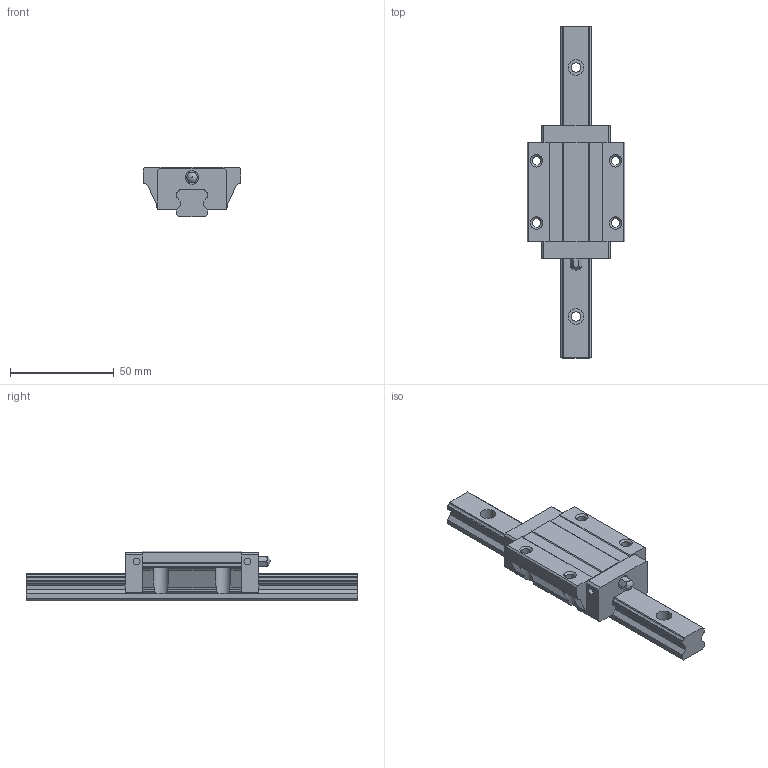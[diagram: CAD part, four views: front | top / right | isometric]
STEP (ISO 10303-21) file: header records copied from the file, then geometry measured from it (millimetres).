
FILE_DESCRIPTION(/* description */ (''),/* implementation_level */ '2;1');
FILE_NAME(/* name */ 'SME15-EA',/* time_stamp */ '2009-06-12T14:16:00+08:00',/* author */ (''),/* organization */ (''),/* preprocessor_version */ 'ST-DEVELOPER v11',/* originating_system */ 'UGS - NX 5.0',/* authorisation */ '');
FILE_SCHEMA (('CONFIG_CONTROL_DESIGN'));
Length unit declared in the file: millimetre
Products named in the file (1): jill3C1A4246
Bounding box: 47 x 160 x 24 mm (x, y, z)
Volume: 68353.4 mm3; surface area: 21708.7 mm2
Topology: 2 solids, 3 shells, 178 faces, 493 edges, 329 vertices
Faces by surface type: plane 108, cylinder 62, cone 4, sphere 2, bspline 2
Full cylindrical faces by diameter (mm): 3.3 x4, 4 x7, 4.2 x4, 4.5 x3, 6.5 x2, 7.5 x3
Entity records: 7204 total; most frequent: CARTESIAN_POINT 2765, DIRECTION 904, ORIENTED_EDGE 880, EDGE_CURVE 440, AXIS2_PLACEMENT_3D 309, VERTEX_POINT 306, LINE 286, VECTOR 286
